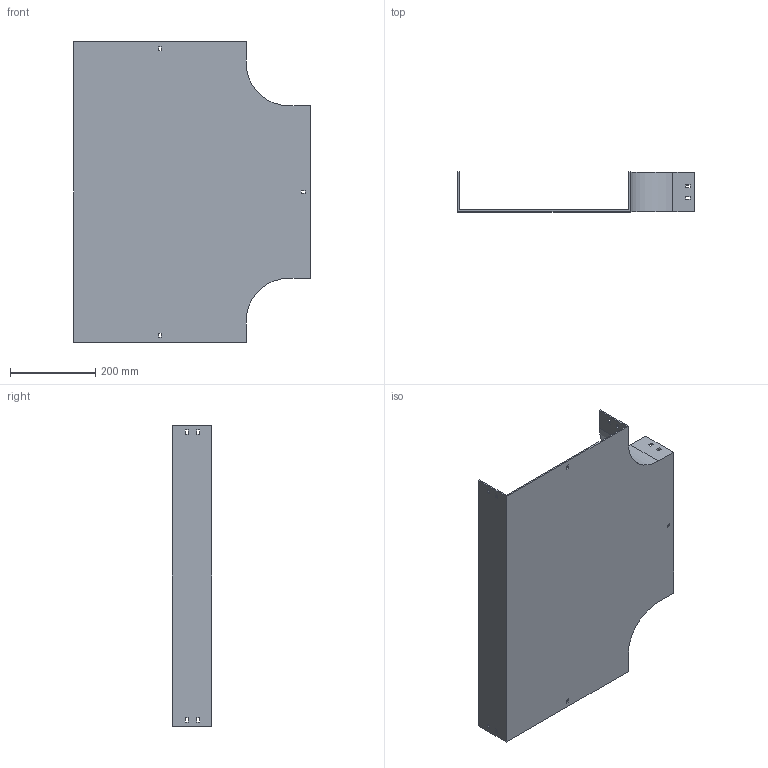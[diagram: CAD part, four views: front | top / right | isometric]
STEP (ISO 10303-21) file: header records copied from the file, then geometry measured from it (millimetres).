
FILE_DESCRIPTION (( 'STEP AP214' ), '1' );
FILE_NAME ('15B1I400.step', '2025-02-21T09:55:53', ( '' ), ( '' ), 'SwSTEP 2.0', 'SolidWorks 2023', '' );
FILE_SCHEMA (( 'AUTOMOTIVE_DESIGN' ));
Length unit declared in the file: millimetre
Products named in the file (1): 15B1I400
Bounding box: 554 x 92.5 x 704 mm (x, y, z)
Volume: 1600193.1 mm3; surface area: 926524.1 mm2
Topology: 1 solids, 1 shells, 82 faces, 240 edges, 160 vertices
Faces by surface type: plane 78, cylinder 4
Entity records: 2755 total; most frequent: CARTESIAN_POINT 483, ORIENTED_EDGE 480, DIRECTION 414, EDGE_CURVE 240, VECTOR 232, LINE 232, VERTEX_POINT 160, EDGE_LOOP 112
